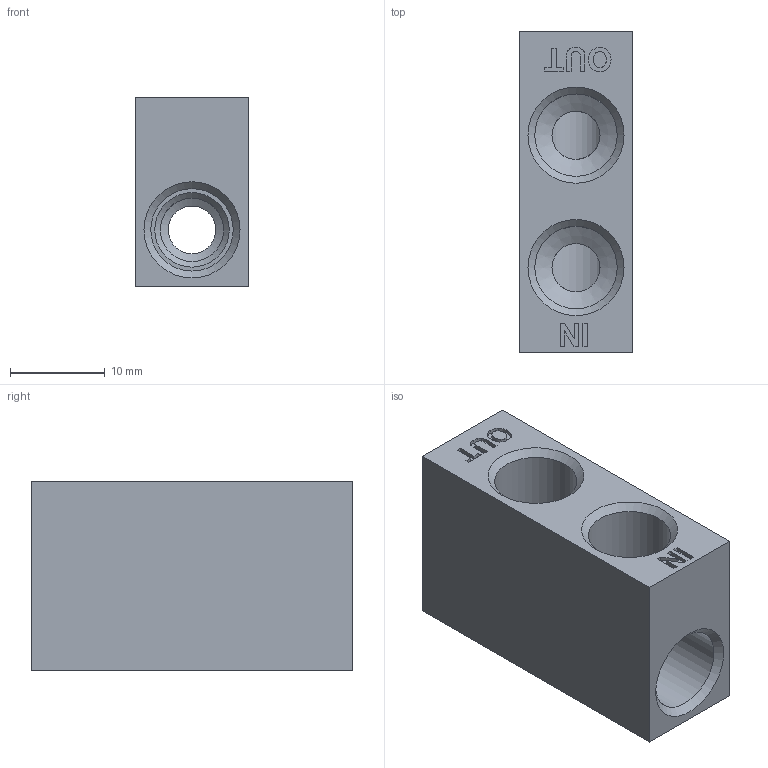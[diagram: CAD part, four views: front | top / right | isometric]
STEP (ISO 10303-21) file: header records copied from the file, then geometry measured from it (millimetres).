
FILE_DESCRIPTION(/* description */ (''),/* implementation_level */ '2;1');
FILE_NAME(/* name */ 'C:/Users/drich/Desktop/cad/Cascades/Jet Cool/Components/Head Only/NPT/JCH-M6-NPT v1.step',/* time_stamp */ '2020-01-10T15:28:43-06:00',/* author */ (''),/* organization */ (''),/* preprocessor_version */ 'ST-DEVELOPER v18',/* originating_system */ 'Autodesk Translation Framework v8.12.0.6',/* authorisation */ '');
FILE_SCHEMA (('AUTOMOTIVE_DESIGN { 1 0 10303 214 3 1 1 }'));
Length unit declared in the file: inch
Products named in the file (1): JCH-M6-NPT
Bounding box: 11.99 x 33.99 x 19.99 mm (x, y, z)
Volume: 5670.8 mm3; surface area: 3743.6 mm2
Topology: 1 solids, 1 shells, 88 faces, 238 edges, 157 vertices
Faces by surface type: plane 41, bspline 32, cone 8, cylinder 7
Full cylindrical faces by diameter (mm): 5.035 x1, 5.08 x2, 6.697 x1, 8.707 x3
Entity records: 3165 total; most frequent: CARTESIAN_POINT 1106, ORIENTED_EDGE 476, DIRECTION 305, EDGE_CURVE 238, VERTEX_POINT 157, LINE 145, VECTOR 145, EDGE_LOOP 99
